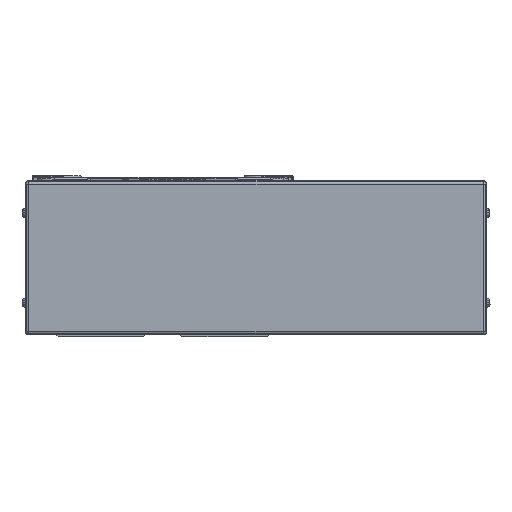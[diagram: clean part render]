
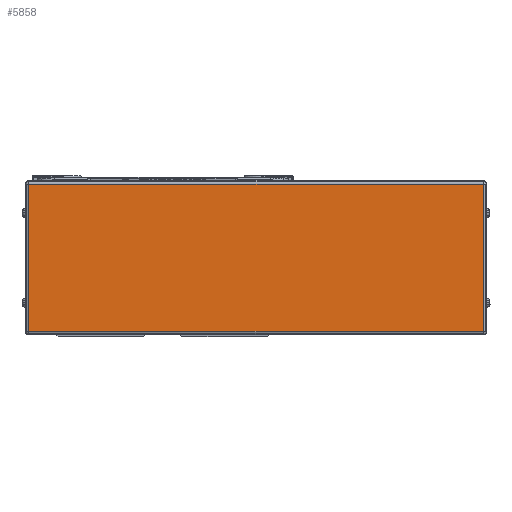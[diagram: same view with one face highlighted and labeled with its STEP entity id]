
A CAD part, left-side view. The second image highlights one B-rep face of the part: STEP entity #5858.
In plain terms, the highlighted planar face has unit normal (-1, 0, 0).
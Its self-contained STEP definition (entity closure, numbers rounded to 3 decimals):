
#5858=ADVANCED_FACE('',(#12087),#12088,.T.);
#12087=FACE_OUTER_BOUND('',#19901,.T.);
#12088=PLANE('',#19902);
#19901=EDGE_LOOP('',(#36528,#36529,#36530,#36531));
#19902=AXIS2_PLACEMENT_3D('',#36532,#36533,#36534);
#36528=ORIENTED_EDGE('',*,*,#46314,.F.);
#36529=ORIENTED_EDGE('',*,*,#41533,.F.);
#36530=ORIENTED_EDGE('',*,*,#46315,.F.);
#36531=ORIENTED_EDGE('',*,*,#46316,.F.);
#36532=CARTESIAN_POINT('',(-45.,-180.5,0.));
#36533=DIRECTION('',(-1.0,0.,0.));
#36534=DIRECTION('',(0.,0.,1.0));
#41533=EDGE_CURVE('',#50132,#50134,#50135,.T.);
#46314=EDGE_CURVE('',#50134,#56855,#56856,.T.);
#46315=EDGE_CURVE('',#47844,#50132,#56857,.T.);
#46316=EDGE_CURVE('',#56855,#47844,#56858,.T.);
#47844=VERTEX_POINT('',#58865);
#50132=VERTEX_POINT('',#61909);
#50134=VERTEX_POINT('',#61911);
#50135=LINE('',#61912,#61913);
#56855=VERTEX_POINT('',#71493);
#56856=LINE('',#71494,#71495);
#56857=LINE('',#71496,#71497);
#56858=LINE('',#71498,#71499);
#58865=CARTESIAN_POINT('',(-45.,74.5,-41.));
#61909=CARTESIAN_POINT('',(-45.,74.5,41.));
#61911=CARTESIAN_POINT('',(-45.,-178.5,41.));
#61912=CARTESIAN_POINT('',(-45.,-180.5,41.));
#61913=VECTOR('',#74969,10.0);
#71493=CARTESIAN_POINT('',(-45.,-178.5,-41.));
#71494=CARTESIAN_POINT('',(-45.,-178.5,0.));
#71495=VECTOR('',#80853,10.0);
#71496=CARTESIAN_POINT('',(-45.,74.5,0.));
#71497=VECTOR('',#80854,10.0);
#71498=CARTESIAN_POINT('',(-45.,-180.5,-41.));
#71499=VECTOR('',#80855,10.0);
#74969=DIRECTION('',(0.,-1.0,0.));
#80853=DIRECTION('',(0.,0.,-1.0));
#80854=DIRECTION('',(0.,0.,1.0));
#80855=DIRECTION('',(0.,1.0,0.));
